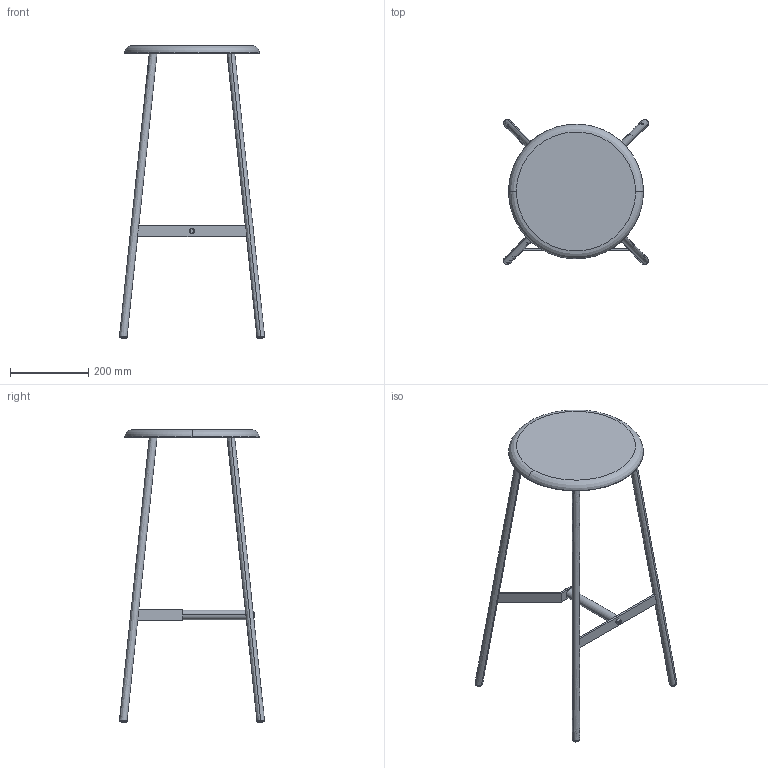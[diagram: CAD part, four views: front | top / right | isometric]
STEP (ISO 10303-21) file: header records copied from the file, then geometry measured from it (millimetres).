
FILE_DESCRIPTION(/* description */ (''),/* implementation_level */ '2;1');
FILE_NAME(/* name */ 'K3GR2X~7',/* time_stamp */ '2020-06-24T11:57:09+09:00',/* author */ (''),/* organization */ (''),/* preprocessor_version */ 'ST-DEVELOPER v15',/* originating_system */ '',/* authorisation */ '');
FILE_SCHEMA (('AUTOMOTIVE_DESIGN'));
Length unit declared in the file: millimetre
Products named in the file (1): Document
Bounding box: 371.36 x 371.36 x 750 mm (x, y, z)
Volume: 2814680.2 mm3; surface area: 438329.2 mm2
Topology: 6 solids, 6 shells, 76 faces, 164 edges, 109 vertices
Faces by surface type: plane 42, bspline 34
Entity records: 2596 total; most frequent: CARTESIAN_POINT 1481, ORIENTED_EDGE 328, EDGE_CURVE 164, VERTEX_POINT 109, B_SPLINE_CURVE_WITH_KNOTS 94, EDGE_LOOP 85, ADVANCED_FACE 76, FACE_OUTER_BOUND 76
